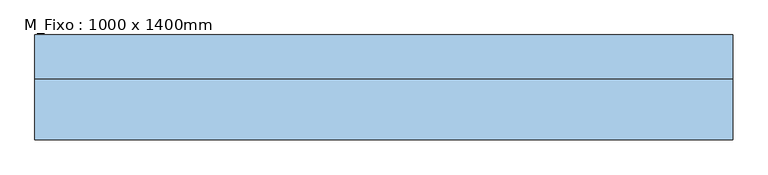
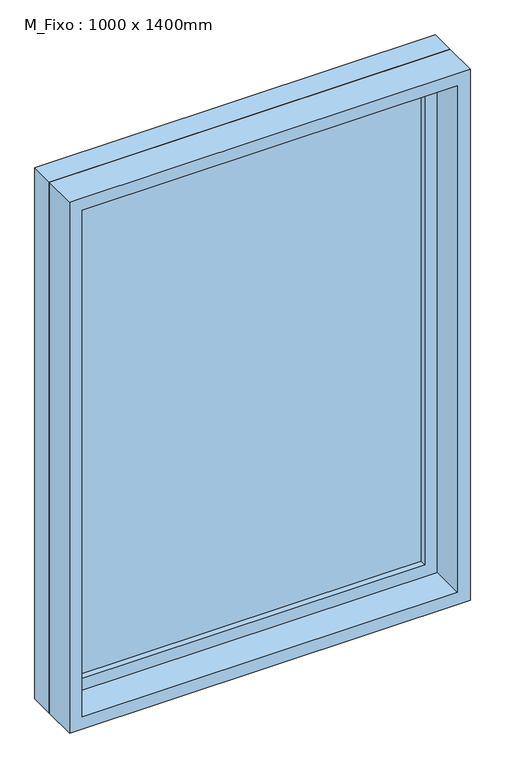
"""IFC4 building model written with IfcOpenShell, lengths in millimetres: window geometry, M_Fixo : 1000 x 1400mm."""

from ifc_helpers import new_model, si_unit, frame, origin, place, context, project, spatial, polyline, outline, extrude, source, transform, mapped, element, save


def m_fixo_1000_x_1400mm_36906248(model_context):
    return source(origin(), model_context, "Body", "SweptSolid", [
        extrude(outline(polyline([(-437.0, 53.0), (437.0, 53.0), (437.0, 41.0), (-437.0, 41.0), (-437.0, 53.0)])), frame((0.0, 0.0, 1063.0), z_axis=(0.0, 0.0, 1.0), x_axis=(1.0, 0.0, 0.0)), (0.0, 0.0, 1.0), 1274.0),
        extrude(outline(polyline([(2381.0, -481.0), (1019.0, -481.0), (1019.0, 481.0), (2381.0, 481.0), (2381.0, -481.0)]), holes=[polyline([(2337.0, -437.0), (2337.0, 437.0), (1063.0, 437.0), (1063.0, -437.0), (2337.0, -437.0)])]), frame((0.0, 25.0, 0.0), z_axis=(0.0, 1.0, 0.0), x_axis=(0.0, 0.0, 1.0)), (0.0, 0.0, 1.0), 44.0),
        extrude(outline(polyline([(2400.0, -500.0), (1000.0, -500.0), (1000.0, 500.0), (2400.0, 500.0), (2400.0, -500.0)]), holes=[polyline([(2381.0, -481.0), (2381.0, 481.0), (1019.0, 481.0), (1019.0, -481.0), (2381.0, -481.0)])]), frame((0.0, 25.0, 0.0), z_axis=(0.0, 1.0, 0.0), x_axis=(0.0, 0.0, 1.0)), (0.0, 0.0, 1.0), 63.0),
        extrude(outline(polyline([(2400.0, -500.0), (1000.0, -500.0), (1000.0, 500.0), (2400.0, 500.0), (2400.0, -500.0)]), holes=[polyline([(2368.0, -468.0), (2368.0, 468.0), (1032.0, 468.0), (1032.0, -468.0), (2368.0, -468.0)])]), frame((0.0, -62.0, 0.0), z_axis=(0.0, 1.0, 0.0), x_axis=(0.0, 0.0, 1.0)), (0.0, 0.0, 1.0), 87.0),
    ])


if __name__ == "__main__":
    model = new_model("IFC4")
    model_context = context("Model", 3, world=origin())
    ifc_project = project(units=[si_unit("LENGTHUNIT", "METRE", prefix="MILLI")], contexts=[model_context])
    site = spatial("IfcSite", under=ifc_project)
    building = spatial("IfcBuilding", under=site)
    placement = place(None, origin())
    m_fixo_1000_x_1400mm_shape = m_fixo_1000_x_1400mm_36906248(model_context)
    element("IfcWindow", 1, ObjectType="M_Fixo : 1000 x 1400mm", at=placement, inside=building, context=model_context, shape_type="MappedRepresentation", body=[
        mapped(m_fixo_1000_x_1400mm_shape, transform((0.0, 0.0, 0.0), x_axis=(1.0, 0.0, 0.0), y_axis=(0.0, 1.0, 0.0), z_axis=(0.0, 0.0, 1.0))),
    ])
    save(model, "model.ifc")
